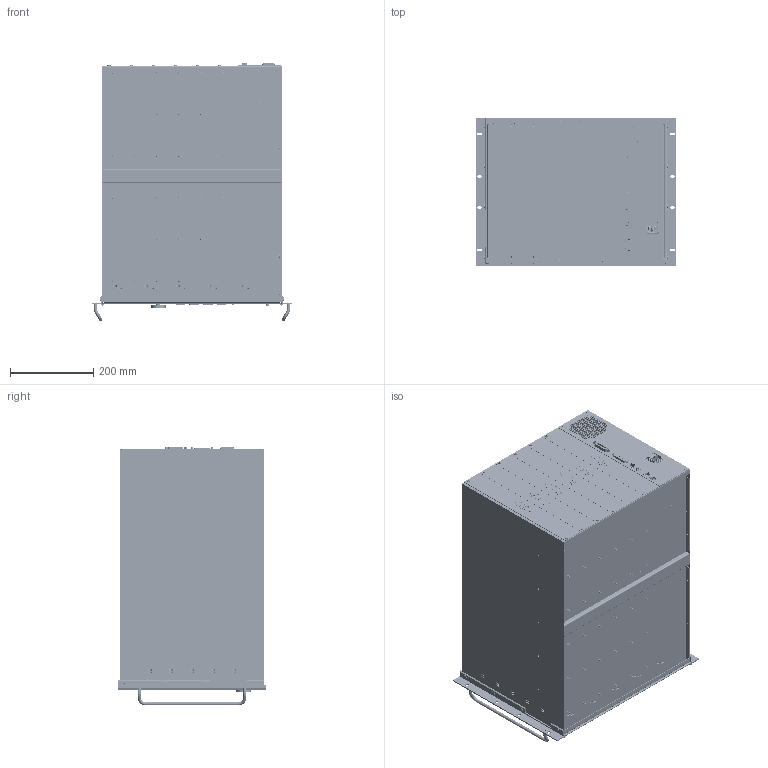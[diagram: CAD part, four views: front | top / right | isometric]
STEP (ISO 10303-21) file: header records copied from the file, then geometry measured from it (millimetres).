
FILE_DESCRIPTION((''),'2;1');
FILE_NAME('707B_ASM','2017-01-24T',('jpeters'),('Keithley Instruments'),'CREO PARAMETRIC BY PTC INC, 2016050','CREO PARAMETRIC BY PTC INC, 2016050','');
FILE_SCHEMA(('CONFIG_CONTROL_DESIGN'));
Length unit declared in the file: inch
Products named in the file (81): 707B-301; PEM-CLS-632-2; PEM-BSOS-440-32; PEM-FHS-832-6; 707B-312; POPRIVET-SD42HR; 707B-301_ASM; 707B-302; PEM-BSOS-632-16; 707B-313; 707B-302_ASM; 707B-303; 707B-305; 707B-306; PEM-F-032-2; 707B-303_ASM; 707B-307; PEM-SOS-440-4; 707B-307_ASM; 707B-308; PEM-SOS-440-8; 707B-308_ASM; 707B-309; 707B-309_ASM; 707B-310; 707B-311; SOUTHCO-D7-200-802-010; SOUTHCO-D7-200-711-010; 707B-310_ASM; 6-32X1-4PPHSEM; 707B-300_ASM; WA-90; 707B-314; PEM-FHS-440-6; PEM-BSOS-440-16; PEM-FHS-094-8; 707B-318; 707B-314_ASM; 707B-319; 707B-322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
Assembly tree (326 placements, depth 4):
  707B_ASM
    707B-300_ASM
      707B-301_ASM
        707B-301
        PEM-CLS-632-2  x13
        PEM-BSOS-440-32  x2
        PEM-FHS-832-6
        707B-312  x6
        POPRIVET-SD42HR  x36
      707B-302_ASM
        707B-302
        PEM-CLS-632-2  x13
        PEM-BSOS-632-16  x4
        PEM-FHS-832-6
        707B-313  x6
        POPRIVET-SD42HR  x24
      707B-303_ASM
        707B-303
        707B-305
        707B-306
        PEM-F-032-2  x9
      707B-307_ASM  x5
        707B-307
        PEM-SOS-440-4
      707B-308_ASM
        707B-308
        PEM-SOS-440-4  x2
        PEM-SOS-440-8  x8
      707B-309_ASM
        707B-309
        PEM-F-032-2  x9
      707B-310_ASM
        707B-310
        PEM-FHS-832-6
        707B-311  x6
        POPRIVET-SD42HR  x18
        SOUTHCO-D7-200-802-010  x2
        SOUTHCO-D7-200-711-010  x2
      6-32X1-4PPHSEM  x8
    WA-90  x6
    707B-FRONT-PANEL_ASM
      707B-314_ASM
        707B-314
        PEM-FHS-440-6  x6
        PEM-BSOS-440-16  x14
        PEM-FHS-094-8  x5
        707B-318
      707B-319_ASM
        707B-319
        707B-322
      708B-310_ASM
        708B-310
        708B-316
      3706-307
      PL-144-3
      236-305-1
      WA-136
    2602-130_ASM
      7002-323-2
    4-40X3-16PPH  x3
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Bounding box: 482.24 x 354.84 x 623.21 mm (x, y, z)
Volume: 4500840.1 mm3; surface area: 5275357.6 mm2
Topology: 328 solids, 342 shells, 28138 faces, 75045 edges, 49040 vertices
Faces by surface type: plane 20925, cylinder 5609, cone 726, bspline 423, torus 259, sphere 190, extrusion 6
Entity records: 482944 total; most frequent: CARTESIAN_POINT 104605, ORIENTED_EDGE 79916, DIRECTION 72686, EDGE_CURVE 39966, VECTOR 34856, LINE 34852, VERTEX_POINT 26123, AXIS2_PLACEMENT_3D 18915
